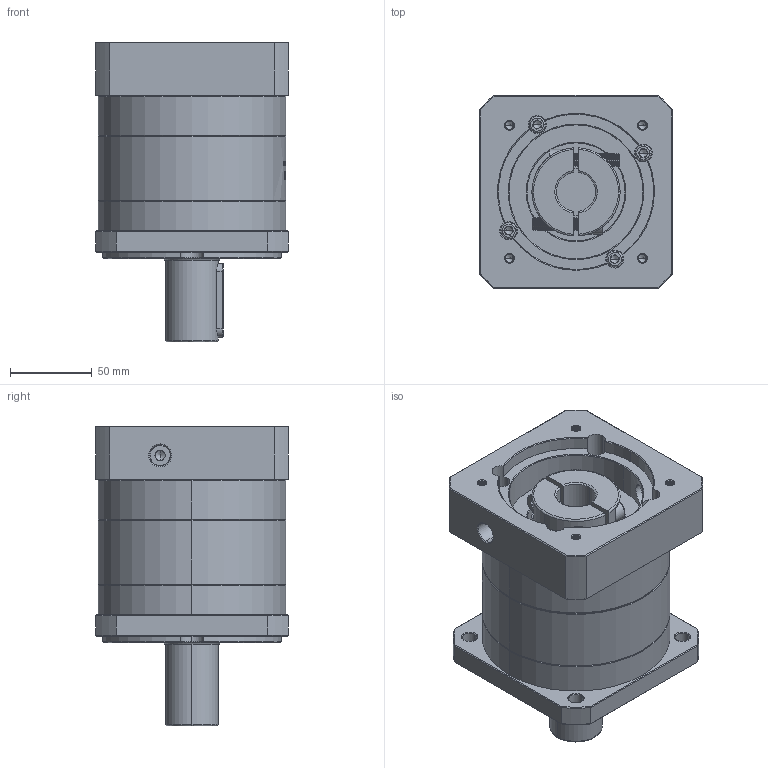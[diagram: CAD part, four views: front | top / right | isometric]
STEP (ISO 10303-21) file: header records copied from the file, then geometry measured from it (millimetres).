
FILE_DESCRIPTION (( 'STEP AP214' ), '1' );
FILE_NAME ('ZF120A-D32-L1-24-95-115-M6.step', '2023-03-07T09:33:00', ( '' ), ( '' ), 'SwSTEP 2.0', 'SolidWorks 2016', '' );
FILE_SCHEMA (( 'AUTOMOTIVE_DESIGN' ));
Length unit declared in the file: millimetre
Products named in the file (1): ZF120A-D32-L1-24-95-115-M6
Bounding box: 118 x 118 x 183.5 mm (x, y, z)
Volume: 1377523.3 mm3; surface area: 158444.7 mm2
Topology: 6 solids, 6 shells, 1962 faces, 5157 edges, 3289 vertices
Faces by surface type: plane 857, cylinder 421, cone 343, bspline 341
Entity records: 107253 total; most frequent: CARTESIAN_POINT 41063, ORIENTED_EDGE 10254, DIRECTION 7971, EDGE_CURVE 5127, VERTEX_POINT 3289, LINE 2753, VECTOR 2753, AXIS2_PLACEMENT_3D 2609
